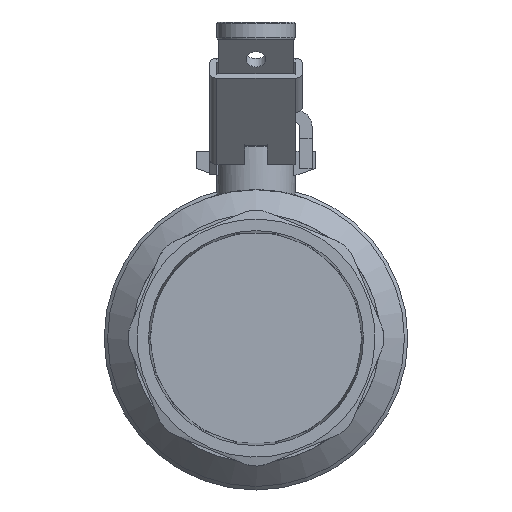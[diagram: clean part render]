
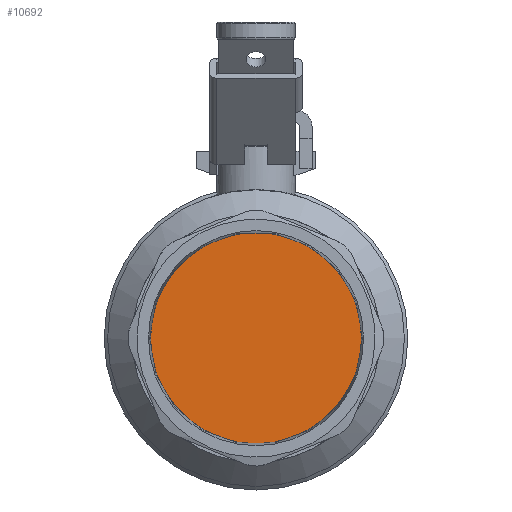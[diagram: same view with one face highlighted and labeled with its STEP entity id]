
A CAD part, left-side view. The second image highlights one B-rep face of the part: STEP entity #10692.
In plain terms, the highlighted planar face has unit normal (-1, 0, 0).
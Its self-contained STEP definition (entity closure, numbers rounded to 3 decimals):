
#10620 = CONICAL_SURFACE('',#10621,42.631,0.031);
#10621 = AXIS2_PLACEMENT_3D('',#10622,#10623,#10624);
#10622 = CARTESIAN_POINT('',(2742.888,0.,0.));
#10623 = DIRECTION('',(1.,0.,0.));
#10624 = DIRECTION('',(0.,-1.,0.));
#10640 = VERTEX_POINT('',#10641);
#10641 = CARTESIAN_POINT('',(25.822,42.228,
    0.));
#10661 = EDGE_CURVE('',#10640,#10640,#10662,.T.);
#10662 = SURFACE_CURVE('',#10663,(#10668,#10675),.PCURVE_S1.);
#10663 = CIRCLE('',#10664,42.228);
#10664 = AXIS2_PLACEMENT_3D('',#10665,#10666,#10667);
#10665 = CARTESIAN_POINT('',(25.822,0.,0.));
#10666 = DIRECTION('',(1.,0.,0.));
#10667 = DIRECTION('',(-0.,1.,0.));
#10668 = PCURVE('',#10620,#10669);
#10669 = DEFINITIONAL_REPRESENTATION('',(#10670),#10674);
#10670 = LINE('',#10671,#10672);
#10671 = CARTESIAN_POINT('',(0.,-2717.067));
#10672 = VECTOR('',#10673,1.);
#10673 = DIRECTION('',(1.,0.));
#10674 = ( GEOMETRIC_REPRESENTATION_CONTEXT(2) 
PARAMETRIC_REPRESENTATION_CONTEXT() REPRESENTATION_CONTEXT('2D SPACE',''
  ) );
#10675 = PCURVE('',#10676,#10681);
#10676 = PLANE('',#10677);
#10677 = AXIS2_PLACEMENT_3D('',#10678,#10679,#10680);
#10678 = CARTESIAN_POINT('',(25.822,21.114,
    0.));
#10679 = DIRECTION('',(-1.,-0.,-0.));
#10680 = DIRECTION('',(-0.,1.,-0.));
#10681 = DEFINITIONAL_REPRESENTATION('',(#10682),#10690);
#10682 = ( BOUNDED_CURVE() B_SPLINE_CURVE(2,(#10683,#10684,#10685,#10686
    ,#10687,#10688,#10689),.UNSPECIFIED.,.T.,.F.) 
B_SPLINE_CURVE_WITH_KNOTS((1,2,2,2,2,1),(-2.094,0.,
    2.094,4.189,6.283,8.378),
.UNSPECIFIED.) CURVE() GEOMETRIC_REPRESENTATION_ITEM() 
RATIONAL_B_SPLINE_CURVE((1.,0.5,1.,0.5,1.,0.5,1.)) REPRESENTATION_ITEM(
  '') );
#10683 = CARTESIAN_POINT('',(21.114,0.));
#10684 = CARTESIAN_POINT('',(21.114,-73.14));
#10685 = CARTESIAN_POINT('',(-42.228,-36.57));
#10686 = CARTESIAN_POINT('',(-105.569,0.));
#10687 = CARTESIAN_POINT('',(-42.228,36.57));
#10688 = CARTESIAN_POINT('',(21.114,73.14));
#10689 = CARTESIAN_POINT('',(21.114,0.));
#10690 = ( GEOMETRIC_REPRESENTATION_CONTEXT(2) 
PARAMETRIC_REPRESENTATION_CONTEXT() REPRESENTATION_CONTEXT('2D SPACE',''
  ) );
#10692 = ADVANCED_FACE('',(#10693),#10676,.T.);
#10693 = FACE_BOUND('',#10694,.T.);
#10694 = EDGE_LOOP('',(#10695));
#10695 = ORIENTED_EDGE('',*,*,#10661,.F.);
